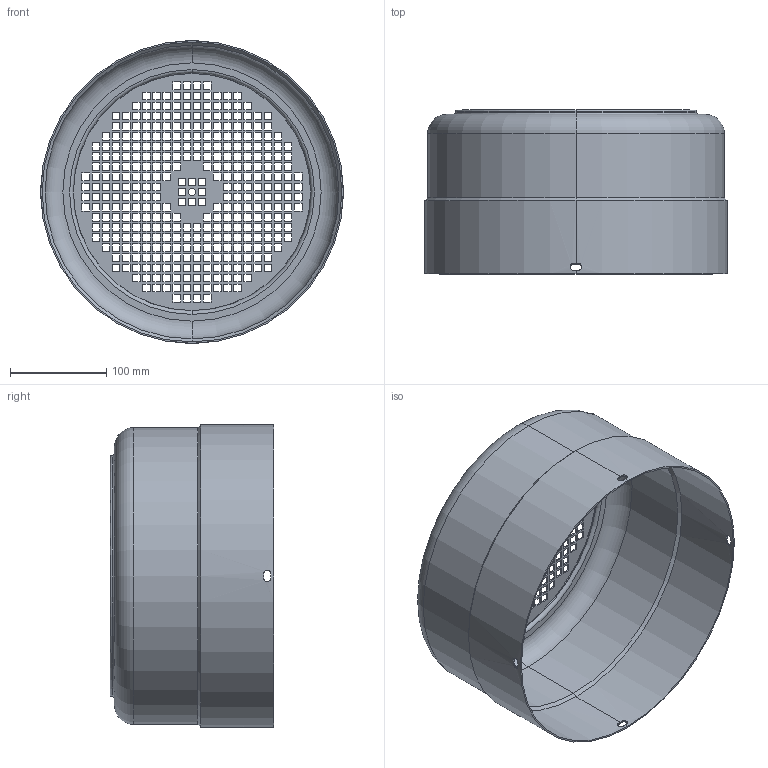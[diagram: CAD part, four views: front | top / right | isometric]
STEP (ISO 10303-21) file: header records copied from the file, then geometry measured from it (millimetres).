
FILE_DESCRIPTION (( 'STEP AP203' ), '1' );
FILE_NAME ('160瑞欶.STEP', '2023-02-21T10:22:16', ( '' ), ( '' ), 'SwSTEP 2.0', 'SolidWorks 2018', '' );
FILE_SCHEMA (( 'CONFIG_CONTROL_DESIGN' ));
Length unit declared in the file: millimetre
Products named in the file (1): 160瑞欶
Bounding box: 314 x 170 x 314 mm (x, y, z)
Volume: 310168.1 mm3; surface area: 431776.6 mm2
Topology: 1 solids, 1 shells, 1432 faces, 4273 edges, 2842 vertices
Faces by surface type: plane 1389, cylinder 27, torus 12, cone 4
Entity records: 49076 total; most frequent: CARTESIAN_POINT 9070, ORIENTED_EDGE 8546, DIRECTION 7189, EDGE_CURVE 4273, VECTOR 4171, LINE 4171, VERTEX_POINT 2842, EDGE_LOOP 2129
